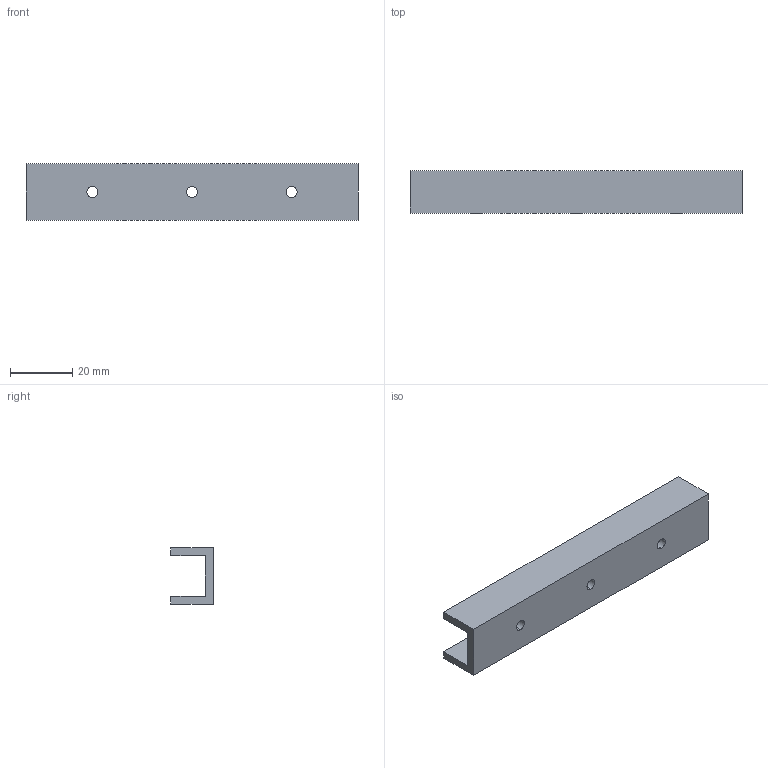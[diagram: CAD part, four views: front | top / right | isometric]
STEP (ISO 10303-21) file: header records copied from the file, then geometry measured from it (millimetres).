
FILE_DESCRIPTION (( 'STEP AP214' ), '1' );
FILE_NAME ('5030_V01_POCKET_PASS-THRU_DBL_CLIP_SER.STEP', '2025-06-19T15:50:13', ( '' ), ( '' ), 'SwSTEP 2.0', 'SolidWorks 2025', '' );
FILE_SCHEMA (( 'AUTOMOTIVE_DESIGN' ));
Length unit declared in the file: inch
Products named in the file (1): 5030_V01_POCKET_PASS-THRU_DBL_CLIP_SER
Bounding box: 106.68 x 13.54 x 18.08 mm (x, y, z)
Volume: 10785 mm3; surface area: 9322.8 mm2
Topology: 1 solids, 1 shells, 16 faces, 42 edges, 28 vertices
Faces by surface type: plane 10, cylinder 6
Entity records: 537 total; most frequent: DIRECTION 88, CARTESIAN_POINT 87, ORIENTED_EDGE 84, EDGE_CURVE 42, VECTOR 30, LINE 30, AXIS2_PLACEMENT_3D 29, VERTEX_POINT 28
